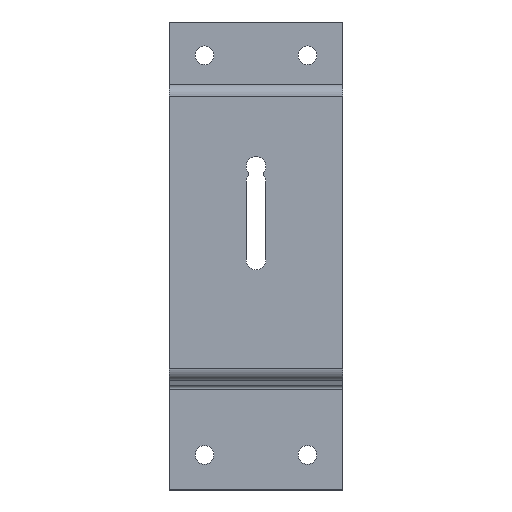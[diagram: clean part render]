
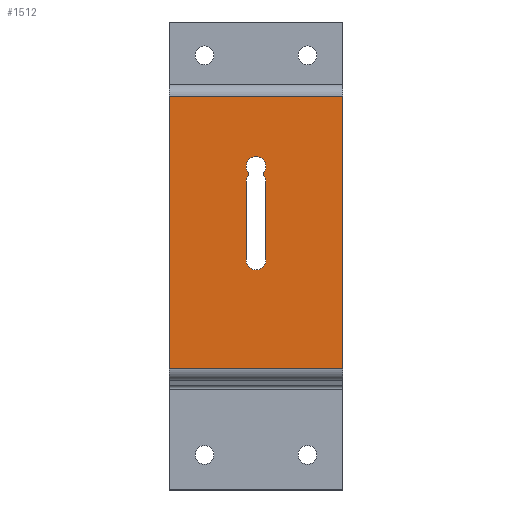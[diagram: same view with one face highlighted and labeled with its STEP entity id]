
A CAD part, front view. The second image highlights one B-rep face of the part: STEP entity #1512.
In plain terms, the highlighted planar face has unit normal (0, -1, 0).
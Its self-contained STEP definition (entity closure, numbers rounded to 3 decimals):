
#8 = DIRECTION ( 'NONE',  ( 0., -1., 0. ) ) ;
#11 = FACE_OUTER_BOUND ( 'NONE', #1352, .T. ) ;
#14 = CARTESIAN_POINT ( 'NONE',  ( 41.25, 0., 79.952 ) ) ;
#33 = ORIENTED_EDGE ( 'NONE', *, *, #1371, .F. ) ;
#39 = CARTESIAN_POINT ( 'NONE',  ( 74., 0., 116.383 ) ) ;
#41 = VERTEX_POINT ( 'NONE', #589 ) ;
#42 = ORIENTED_EDGE ( 'NONE', *, *, #861, .F. ) ;
#69 = DIRECTION ( 'NONE',  ( 0., 0., -1. ) ) ;
#70 = VERTEX_POINT ( 'NONE', #1590 ) ;
#72 = DIRECTION ( 'NONE',  ( 0., 0., -1. ) ) ;
#77 = CARTESIAN_POINT ( 'NONE',  ( 0., 0., 116.383 ) ) ;
#81 = VECTOR ( 'NONE', #118, 1000. ) ;
#85 = LINE ( 'NONE', #587, #1567 ) ;
#118 = DIRECTION ( 'NONE',  ( 1., 0., 0. ) ) ;
#128 = VERTEX_POINT ( 'NONE', #1119 ) ;
#132 = CARTESIAN_POINT ( 'NONE',  ( 40.36, 0., 83.78 ) ) ;
#133 = CIRCLE ( 'NONE', #438, 1. ) ;
#163 = EDGE_CURVE ( 'NONE', #992, #41, #1389, .T. ) ;
#184 = FACE_BOUND ( 'NONE', #459, .T. ) ;
#189 = CARTESIAN_POINT ( 'NONE',  ( 32.75, 0., 46.383 ) ) ;
#237 = CARTESIAN_POINT ( 'NONE',  ( 32.85, 0., 83.168 ) ) ;
#247 = CARTESIAN_POINT ( 'NONE',  ( 74., 0., 116.383 ) ) ;
#271 = EDGE_CURVE ( 'NONE', #1569, #1096, #1060, .T. ) ;
#274 = ORIENTED_EDGE ( 'NONE', *, *, #1165, .T. ) ;
#284 = ORIENTED_EDGE ( 'NONE', *, *, #634, .F. ) ;
#309 = DIRECTION ( 'NONE',  ( 0., 0., 1. ) ) ;
#311 = EDGE_CURVE ( 'NONE', #720, #1096, #1633, .T. ) ;
#321 = CARTESIAN_POINT ( 'NONE',  ( 37., 0., 79.952 ) ) ;
#391 = DIRECTION ( 'NONE',  ( 0., 0., -1. ) ) ;
#406 = CIRCLE ( 'NONE', #1448, 4.25 ) ;
#414 = AXIS2_PLACEMENT_3D ( 'NONE', #1611, #985, #1112 ) ;
#438 = AXIS2_PLACEMENT_3D ( 'NONE', #1280, #8, #1406 ) ;
#459 = EDGE_LOOP ( 'NONE', ( #1293, #1417, #581, #42, #679, #33, #1048, #284, #274 ) ) ;
#506 = DIRECTION ( 'NONE',  ( 0., -1., 0. ) ) ;
#538 = VECTOR ( 'NONE', #391, 1000. ) ;
#581 = ORIENTED_EDGE ( 'NONE', *, *, #163, .F. ) ;
#587 = CARTESIAN_POINT ( 'NONE',  ( 32.75, 0., 79.952 ) ) ;
#589 = CARTESIAN_POINT ( 'NONE',  ( 40.36, 0., 82.555 ) ) ;
#607 = CIRCLE ( 'NONE', #1086, 4.25 ) ;
#634 = EDGE_CURVE ( 'NONE', #1316, #70, #1546, .T. ) ;
#679 = ORIENTED_EDGE ( 'NONE', *, *, #1286, .F. ) ;
#720 = VERTEX_POINT ( 'NONE', #39 ) ;
#733 = DIRECTION ( 'NONE',  ( 0., -1., 0. ) ) ;
#742 = CARTESIAN_POINT ( 'NONE',  ( 33.64, 0., 83.78 ) ) ;
#744 = AXIS2_PLACEMENT_3D ( 'NONE', #1645, #768, #875 ) ;
#761 = DIRECTION ( 'NONE',  ( 1., 0., 0. ) ) ;
#768 = DIRECTION ( 'NONE',  ( 0., -1., 0. ) ) ;
#831 = VERTEX_POINT ( 'NONE', #189 ) ;
#841 = CARTESIAN_POINT ( 'NONE',  ( 0., 0., 116.383 ) ) ;
#861 = EDGE_CURVE ( 'NONE', #128, #992, #1452, .T. ) ;
#864 = EDGE_CURVE ( 'NONE', #70, #831, #85, .T. ) ;
#875 = DIRECTION ( 'NONE',  ( 0., 0., -1. ) ) ;
#886 = CARTESIAN_POINT ( 'NONE',  ( 74., 0., 0. ) ) ;
#898 = VECTOR ( 'NONE', #72, 1000. ) ;
#963 = LINE ( 'NONE', #1385, #1466 ) ;
#977 = ORIENTED_EDGE ( 'NONE', *, *, #311, .F. ) ;
#985 = DIRECTION ( 'NONE',  ( 0., -1., 0. ) ) ;
#992 = VERTEX_POINT ( 'NONE', #14 ) ;
#1004 = CIRCLE ( 'NONE', #744, 4.25 ) ;
#1025 = CARTESIAN_POINT ( 'NONE',  ( 74., 0., 0. ) ) ;
#1048 = ORIENTED_EDGE ( 'NONE', *, *, #864, .F. ) ;
#1060 = LINE ( 'NONE', #1025, #81 ) ;
#1065 = EDGE_CURVE ( 'NONE', #1084, #41, #133, .T. ) ;
#1071 = AXIS2_PLACEMENT_3D ( 'NONE', #321, #1221, #69 ) ;
#1084 = VERTEX_POINT ( 'NONE', #132 ) ;
#1086 = AXIS2_PLACEMENT_3D ( 'NONE', #1484, #733, #1224 ) ;
#1096 = VERTEX_POINT ( 'NONE', #886 ) ;
#1110 = DIRECTION ( 'NONE',  ( 0., -1., 0. ) ) ;
#1112 = DIRECTION ( 'NONE',  ( 0., 0., -1. ) ) ;
#1119 = CARTESIAN_POINT ( 'NONE',  ( 41.25, 0., 46.383 ) ) ;
#1165 = EDGE_CURVE ( 'NONE', #1316, #1543, #1419, .T. ) ;
#1196 = VECTOR ( 'NONE', #309, 1000. ) ;
#1203 = CARTESIAN_POINT ( 'NONE',  ( 37., 0., 42.133 ) ) ;
#1221 = DIRECTION ( 'NONE',  ( 0., -1., 0. ) ) ;
#1224 = DIRECTION ( 'NONE',  ( 0., 0., -1. ) ) ;
#1235 = CARTESIAN_POINT ( 'NONE',  ( 37., 0., 46.383 ) ) ;
#1280 = CARTESIAN_POINT ( 'NONE',  ( 41.15, 0., 83.168 ) ) ;
#1286 = EDGE_CURVE ( 'NONE', #1646, #128, #406, .T. ) ;
#1293 = ORIENTED_EDGE ( 'NONE', *, *, #1554, .F. ) ;
#1299 = ORIENTED_EDGE ( 'NONE', *, *, #1632, .T. ) ;
#1316 = VERTEX_POINT ( 'NONE', #1402 ) ;
#1352 = EDGE_LOOP ( 'NONE', ( #1299, #1650, #977, #1404 ) ) ;
#1353 = VERTEX_POINT ( 'NONE', #1522 ) ;
#1354 = CARTESIAN_POINT ( 'NONE',  ( 41.25, 0., 46.383 ) ) ;
#1358 = PLANE ( 'NONE',  #1558 ) ;
#1362 = DIRECTION ( 'NONE',  ( 0., 0., -1. ) ) ;
#1371 = EDGE_CURVE ( 'NONE', #831, #1646, #1004, .T. ) ;
#1385 = CARTESIAN_POINT ( 'NONE',  ( 0., 0., 116.383 ) ) ;
#1389 = CIRCLE ( 'NONE', #414, 4.25 ) ;
#1393 = DIRECTION ( 'NONE',  ( 0., 0., -1. ) ) ;
#1398 = EDGE_CURVE ( 'NONE', #1353, #720, #963, .T. ) ;
#1402 = CARTESIAN_POINT ( 'NONE',  ( 33.64, 0., 82.555 ) ) ;
#1404 = ORIENTED_EDGE ( 'NONE', *, *, #1398, .F. ) ;
#1406 = DIRECTION ( 'NONE',  ( 0., 0., -1. ) ) ;
#1417 = ORIENTED_EDGE ( 'NONE', *, *, #1065, .T. ) ;
#1419 = CIRCLE ( 'NONE', #1579, 1. ) ;
#1448 = AXIS2_PLACEMENT_3D ( 'NONE', #1235, #1609, #1362 ) ;
#1452 = LINE ( 'NONE', #1354, #1196 ) ;
#1466 = VECTOR ( 'NONE', #761, 1000. ) ;
#1472 = DIRECTION ( 'NONE',  ( 0., 0., -1. ) ) ;
#1484 = CARTESIAN_POINT ( 'NONE',  ( 37., 0., 86.383 ) ) ;
#1489 = LINE ( 'NONE', #77, #898 ) ;
#1512 = ADVANCED_FACE ( 'NONE', ( #184, #11 ), #1358, .T. ) ;
#1522 = CARTESIAN_POINT ( 'NONE',  ( 0., 0., 116.383 ) ) ;
#1543 = VERTEX_POINT ( 'NONE', #742 ) ;
#1546 = CIRCLE ( 'NONE', #1071, 4.25 ) ;
#1554 = EDGE_CURVE ( 'NONE', #1084, #1543, #607, .T. ) ;
#1558 = AXIS2_PLACEMENT_3D ( 'NONE', #841, #1110, #1613 ) ;
#1567 = VECTOR ( 'NONE', #1472, 1000. ) ;
#1569 = VERTEX_POINT ( 'NONE', #1606 ) ;
#1579 = AXIS2_PLACEMENT_3D ( 'NONE', #237, #506, #1393 ) ;
#1590 = CARTESIAN_POINT ( 'NONE',  ( 32.75, 0., 79.952 ) ) ;
#1606 = CARTESIAN_POINT ( 'NONE',  ( 0., 0., 0. ) ) ;
#1609 = DIRECTION ( 'NONE',  ( 0., -1., 0. ) ) ;
#1611 = CARTESIAN_POINT ( 'NONE',  ( 37., 0., 79.952 ) ) ;
#1613 = DIRECTION ( 'NONE',  ( 0., 0., -1. ) ) ;
#1632 = EDGE_CURVE ( 'NONE', #1353, #1569, #1489, .T. ) ;
#1633 = LINE ( 'NONE', #247, #538 ) ;
#1645 = CARTESIAN_POINT ( 'NONE',  ( 37., 0., 46.383 ) ) ;
#1646 = VERTEX_POINT ( 'NONE', #1203 ) ;
#1650 = ORIENTED_EDGE ( 'NONE', *, *, #271, .T. ) ;
